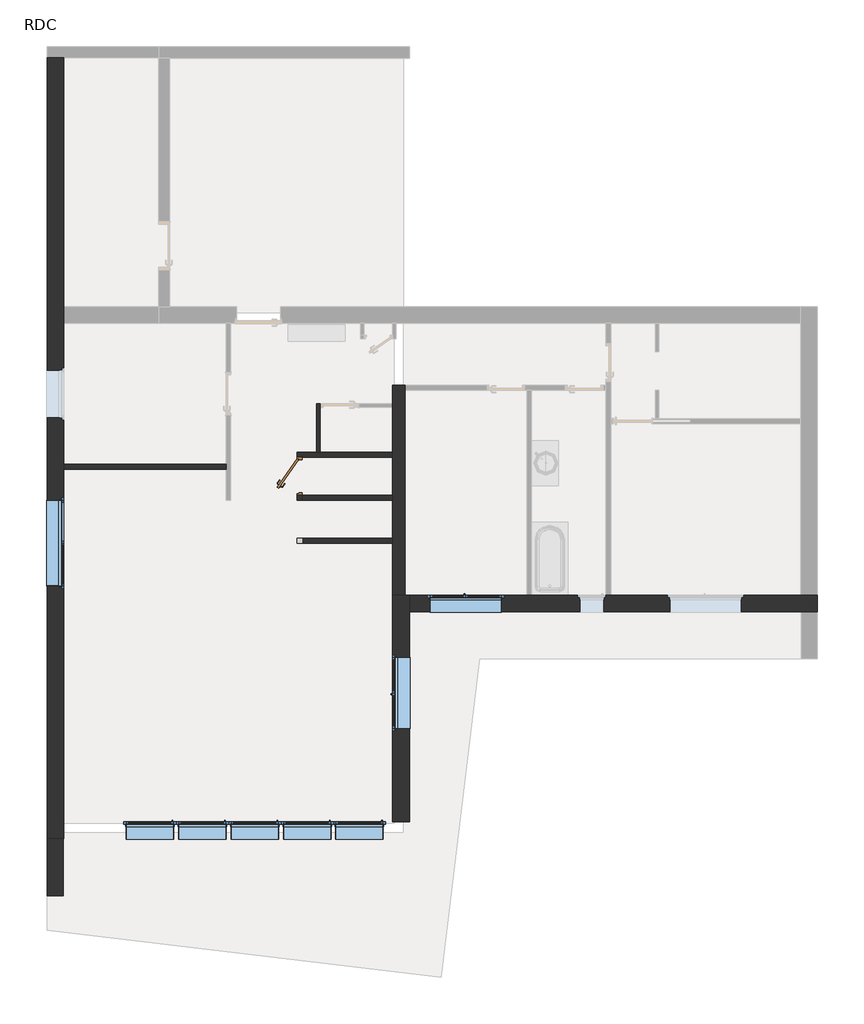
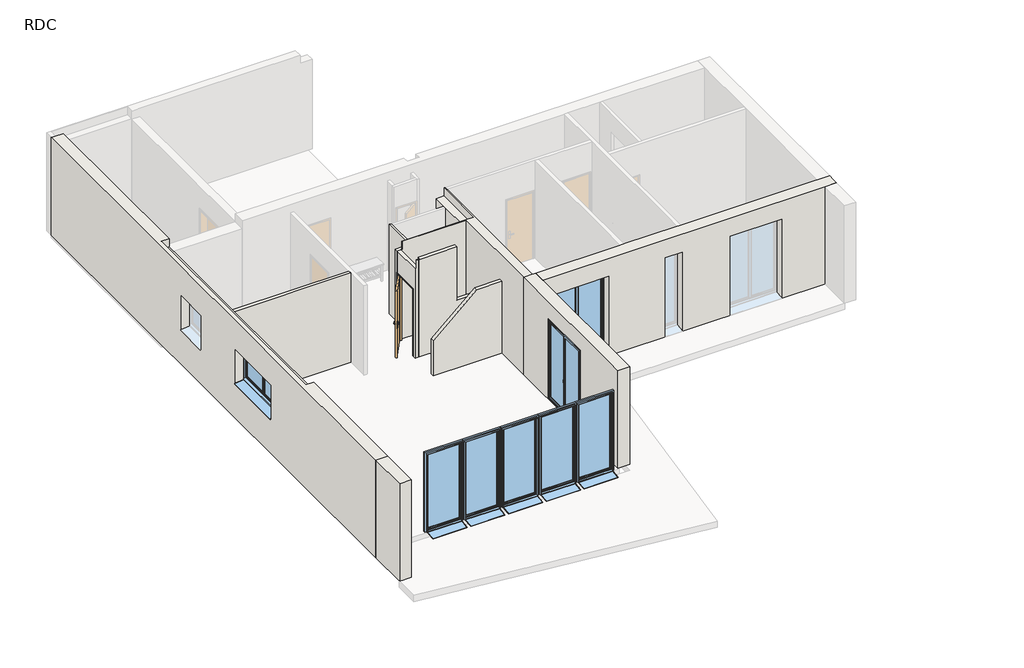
# One storey, part 1 of 2: 11 walls, 8 windows, 1 door.
"""IFC4 building model written with IfcOpenShell, lengths in millimetres."""

from ifc_helpers import new_model, si_unit, frame, origin, origin_with_axes, place, context, project, spatial, polyline, outline, extrude, faceted_brep, transform, mapped, element, save
from components import int_simple_pp_0_73m_x_2_04m_0155da5d, window_1_00m_x_2_40m_46732dcd, window_1_50m_x_2_40m_e69f112c, window_1_80m_x_1_00m_00121215

model = new_model("IFC4")

# Units and contexts
model_context = context("Model", 3, world=origin())
ifc_project = project(units=[si_unit("LENGTHUNIT", "METRE", prefix="MILLI")], contexts=[model_context])

# Site, building, storey
site = spatial("IfcSite", under=ifc_project)
building = spatial("IfcBuilding", under=site)
storey = spatial("IfcBuildingStorey", under=building, Name="RDC", Elevation=0.0)

# Door
placement = place(None, origin())
int_simple_pp_0_73m_x_2_04m_shape = int_simple_pp_0_73m_x_2_04m_0155da5d(model_context)
element("IfcDoor", 1, ObjectType="Int. Simple : PP (0.73m x 2.04m)", at=placement, inside=storey, context=model_context, shape_type="MappedRepresentation", body=[
    mapped(int_simple_pp_0_73m_x_2_04m_shape, transform((-2669.1256089, -1110.1038978, 0.0), x_axis=(0.0, 1.0, 0.0), y_axis=(-1.0, 0.0, 0.0), z_axis=(0.0, 0.0, 1.0))),
])

# Walls
element("IfcWall", 2, ObjectType="Ext. Bardage Métal + Isolant + Béton + Finition", at=placement, inside=storey, context=model_context, shape_type="Brep", body=[
    faceted_brep([(-7956.697342, 7624.9574199, 0.0), (-7956.697342, -8735.0425801, 0.0), (-7956.697342, -8735.0425801, 3000.0), (-7956.697342, 7624.9574199, 3000.0), (-7956.697342, 79.9267611, 2100.0), (-7956.697342, 79.9267611, 1056.6218565), (-7956.697342, 1079.9267611, 1056.6218565), (-7956.697342, 1079.9267611, 2100.0), (-7956.697342, -3445.1038978, 2100.0), (-7956.697342, -3445.1038978, 1056.6218565), (-7956.697342, -1645.1038978, 1056.6218565), (-7956.697342, -1645.1038978, 2100.0), (-7606.697342, -8735.0425801, 0.0), (-7606.697342, -8385.0425801, 0.0), (-7606.697342, -995.1038978, 0.0), (-7606.697342, -895.1038978, 0.0), (-7606.697342, 2054.9574199, 0.0), (-7606.697342, 2404.9574199, 0.0), (-7606.697342, 7624.9574199, 0.0), (-7606.697342, 7624.9574199, 3000.0), (-7606.697342, 2284.9574199, 3000.0), (-7606.697342, 2284.9574199, 2750.0), (-7606.697342, 2054.9574199, 2750.0), (-7606.697342, -895.1038978, 2750.0), (-7606.697342, -995.1038978, 2750.0), (-7606.697342, -4992.0425801, 2750.0), (-7606.697342, -4992.0425801, 3000.0), (-7606.697342, -8385.0425801, 3000.0), (-7606.697342, -8735.0425801, 3000.0), (-7606.697342, 1129.9267611, 1100.0), (-7606.697342, 29.9267611, 1100.0), (-7606.697342, 29.9267611, 2150.0), (-7606.697342, 1129.9267611, 2150.0), (-7606.697342, -1595.1038978, 1100.0), (-7606.697342, -3495.1038978, 1100.0), (-7606.697342, -3495.1038978, 2150.0), (-7606.697342, -1595.1038978, 2150.0), (-7616.697342, -8735.0425801, 0.0), (-7616.697342, -8735.0425801, 3000.0), (-7836.697342, -4992.0425801, 3000.0), (-7836.697342, 2284.9574199, 3000.0), (-7836.697342, 7624.9574199, 3000.0), (-7836.697342, 2284.9574199, 2750.0), (-7836.697342, -4992.0425801, 2750.0), (-7686.697342, 79.9267611, 1100.0), (-7686.697342, 79.9267611, 1085.0), (-7706.697342, 79.9267611, 2100.0), (-7706.697342, 79.9267611, 1100.0), (-7686.697342, 1079.9267611, 1085.0), (-7686.697342, 1079.9267611, 1100.0), (-7706.697342, 1079.9267611, 1100.0), (-7706.697342, 1079.9267611, 2100.0), (-7706.697342, 69.9267611, 1100.0), (-7656.697342, 69.9267611, 1100.0), (-7656.697342, 29.9267611, 1100.0), (-7656.697342, 1129.9267611, 1100.0), (-7656.697342, 1089.9267611, 1100.0), (-7706.697342, 1089.9267611, 1100.0), (-7656.697342, 29.9267611, 2150.0), (-7656.697342, 69.9267611, 2110.0), (-7656.697342, 1089.9267611, 2110.0), (-7656.697342, 1129.9267611, 2150.0), (-7706.697342, 69.9267611, 2110.0), (-7706.697342, 1089.9267611, 2110.0), (-7686.697342, -3445.1038978, 1100.0), (-7686.697342, -3445.1038978, 1085.0), (-7706.697342, -3445.1038978, 2100.0), (-7706.697342, -3445.1038978, 1100.0), (-7686.697342, -1645.1038978, 1085.0), (-7686.697342, -1645.1038978, 1100.0), (-7706.697342, -1645.1038978, 1100.0), (-7706.697342, -1645.1038978, 2100.0), (-7706.697342, -3455.1038978, 1100.0), (-7656.697342, -3455.1038978, 1100.0), (-7656.697342, -3495.1038978, 1100.0), (-7656.697342, -1595.1038978, 1100.0), (-7656.697342, -1635.1038978, 1100.0), (-7706.697342, -1635.1038978, 1100.0), (-7656.697342, -3495.1038978, 2150.0), (-7656.697342, -3455.1038978, 2110.0), (-7656.697342, -1635.1038978, 2110.0), (-7656.697342, -1595.1038978, 2150.0), (-7706.697342, -3455.1038978, 2110.0), (-7706.697342, -1635.1038978, 2110.0)], [[[0, 1, 2, 3], [4, 5, 6, 7], [8, 9, 10, 11]], [[12, 13, 14, 15, 16, 17, 18, 19, 20, 21, 22, 23, 24, 25, 26, 27, 28], [29, 30, 31, 32], [33, 34, 35, 36]], [[1, 0, 18, 17, 16, 15, 14, 13, 12, 37]], [[3, 2, 38, 28, 27, 26, 39, 40, 20, 19, 41]], [[42, 43, 25, 24, 23, 22, 21]], [[43, 42, 40, 39]], [[43, 39, 26, 25]], [[40, 42, 21, 20]], [[0, 3, 41, 19, 18]], [[2, 1, 37, 12, 28, 38]], [[44, 45, 5, 4, 46, 47]], [[48, 49, 50, 51, 7, 6]], [[5, 45, 48, 6]], [[45, 44, 49, 48]], [[46, 4, 7, 51]], [[44, 47, 52, 53, 54, 30, 29, 55, 56, 57, 50, 49]], [[30, 54, 58, 31]], [[54, 53, 59, 60, 56, 55, 61, 58]], [[53, 52, 62, 59]], [[47, 46, 51, 50, 57, 63, 62, 52]], [[31, 58, 61, 32]], [[60, 59, 62, 63]], [[55, 29, 32, 61]], [[57, 56, 60, 63]], [[64, 65, 9, 8, 66, 67]], [[68, 69, 70, 71, 11, 10]], [[9, 65, 68, 10]], [[65, 64, 69, 68]], [[66, 8, 11, 71]], [[64, 67, 72, 73, 74, 34, 33, 75, 76, 77, 70, 69]], [[34, 74, 78, 35]], [[74, 73, 79, 80, 76, 75, 81, 78]], [[73, 72, 82, 79]], [[67, 66, 71, 70, 77, 83, 82, 72]], [[35, 78, 81, 36]], [[80, 79, 82, 83]], [[75, 33, 36, 81]], [[77, 76, 80, 83]]]),
])
element("IfcWall", 3, ObjectType="Ext. Bardage Bois + Isolant + Béton + Finition", at=placement, inside=storey, context=model_context, shape_type="Brep", body=[
    faceted_brep([(-366.697342, -8385.0425801, 0.0), (-366.697342, -3985.0425801, 0.0), (-366.697342, -3635.0425801, 0.0), (-366.697342, -3635.0425801, 3000.0), (-366.697342, -3985.0425801, 3000.0), (-366.697342, -8385.0425801, 3000.0), (-366.697342, -4935.0425801, 2435.0), (-366.697342, -4935.0425801, 6.6218565), (-366.697342, -6435.0425801, 6.6218565), (-366.697342, -6435.0425801, 2435.0), (-716.697342, -8385.0425801, 0.0), (-716.697342, -8385.0425801, 3000.0), (-716.697342, -3635.0425801, 3000.0), (-716.697342, -3635.0425801, 0.0), (-716.697342, -6485.0425801, 35.0), (-716.697342, -4885.0425801, 35.0), (-716.697342, -4885.0425801, 2485.0), (-716.697342, -6485.0425801, 2485.0), (-456.697342, -3635.0425801, 0.0), (-456.697342, -3635.0425801, 3000.0), (-636.697342, -4935.0425801, 35.0), (-616.697342, -4935.0425801, 2435.0), (-616.697342, -4935.0425801, 35.0), (-636.697342, -6435.0425801, 35.0), (-616.697342, -6435.0425801, 35.0), (-616.697342, -6435.0425801, 2435.0), (-616.697342, -4925.0425801, 35.0), (-666.697342, -4925.0425801, 35.0), (-666.697342, -4885.0425801, 35.0), (-666.697342, -6485.0425801, 35.0), (-666.697342, -6445.0425801, 35.0), (-616.697342, -6445.0425801, 35.0), (-666.697342, -4885.0425801, 2485.0), (-666.697342, -4925.0425801, 2445.0), (-666.697342, -6445.0425801, 2445.0), (-666.697342, -6485.0425801, 2485.0), (-616.697342, -4925.0425801, 2445.0), (-616.697342, -6445.0425801, 2445.0)], [[[0, 1, 2, 3, 4, 5], [6, 7, 8, 9]], [[10, 11, 12, 13], [14, 15, 16, 17]], [[2, 1, 0, 10, 13, 18]], [[5, 4, 3, 19, 12, 11]], [[0, 5, 11, 10]], [[3, 2, 18, 13, 12, 19]], [[20, 7, 6, 21, 22]], [[8, 23, 24, 25, 9]], [[20, 23, 8, 7]], [[6, 9, 25, 21]], [[23, 20, 22, 26, 27, 28, 15, 14, 29, 30, 31, 24]], [[15, 28, 32, 16]], [[28, 27, 33, 34, 30, 29, 35, 32]], [[27, 26, 36, 33]], [[26, 22, 21, 25, 24, 31, 37, 36]], [[16, 32, 35, 17]], [[34, 33, 36, 37]], [[35, 29, 14, 17]], [[30, 34, 37, 31]]]),
])
element("IfcWall", 4, ObjectType="Ext. Bardage Métal + Isolant + Béton + Finition", at=placement, inside=storey, context=model_context, shape_type="Brep", body=[
    faceted_brep([(-366.697342, -3985.0425801, 0.0), (7843.302658, -3985.0425801, 0.0), (8183.302658, -3985.0425801, 0.0), (8183.302658, -3985.0425801, 3000.0), (7843.302658, -3985.0425801, 3000.0), (-366.697342, -3985.0425801, 3000.0), (1563.302658, -3985.0425801, 2435.0), (1563.302658, -3985.0425801, 6.6218565), (63.302658, -3985.0425801, 6.6218565), (63.302658, -3985.0425801, 2435.0), (6593.802658, -3985.0425801, 2435.0), (6593.802658, -3985.0425801, 6.6218565), (5093.802658, -3985.0425801, 6.6218565), (5093.802658, -3985.0425801, 2435.0), (3704.302658, -3985.0425801, 2435.0), (3704.302658, -3985.0425801, 6.6218565), (3204.302658, -3985.0425801, 6.6218565), (3204.302658, -3985.0425801, 2435.0), (-366.697342, -3635.0425801, 0.0), (-366.697342, -3635.0425801, 3000.0), (2094.302658, -3635.0425801, 3000.0), (2194.302658, -3635.0425801, 3000.0), (3754.302658, -3635.0425801, 3000.0), (3854.302658, -3635.0425801, 3000.0), (7833.302658, -3635.0425801, 3000.0), (8183.302658, -3635.0425801, 3000.0), (8183.302658, -3635.0425801, 0.0), (7833.302658, -3635.0425801, 0.0), (3854.302658, -3635.0425801, 0.0), (3754.302658, -3635.0425801, 0.0), (2194.302658, -3635.0425801, 0.0), (2094.302658, -3635.0425801, 0.0), (13.302658, -3635.0425801, 35.0), (1613.302658, -3635.0425801, 35.0), (1613.302658, -3635.0425801, 2485.0), (13.302658, -3635.0425801, 2485.0), (5043.802658, -3635.0425801, 35.0), (6643.802658, -3635.0425801, 35.0), (6643.802658, -3635.0425801, 2485.0), (5043.802658, -3635.0425801, 2485.0), (3154.302658, -3635.0425801, 35.0), (3754.302658, -3635.0425801, 35.0), (3754.302658, -3635.0425801, 2485.0), (3154.302658, -3635.0425801, 2485.0), (8183.302658, -3810.0425801, 3000.0), (1563.302658, -3715.0425801, 35.0), (1563.302658, -3735.0425801, 2435.0), (1563.302658, -3735.0425801, 35.0), (63.302658, -3715.0425801, 35.0), (63.302658, -3735.0425801, 35.0), (63.302658, -3735.0425801, 2435.0), (1573.302658, -3735.0425801, 35.0), (1573.302658, -3685.0425801, 35.0), (1613.302658, -3685.0425801, 35.0), (13.302658, -3685.0425801, 35.0), (53.302658, -3685.0425801, 35.0), (53.302658, -3735.0425801, 35.0), (1613.302658, -3685.0425801, 2485.0), (1573.302658, -3685.0425801, 2445.0), (53.302658, -3685.0425801, 2445.0), (13.302658, -3685.0425801, 2485.0), (1573.302658, -3735.0425801, 2445.0), (53.302658, -3735.0425801, 2445.0), (6593.802658, -3715.0425801, 35.0), (6593.802658, -3735.0425801, 2435.0), (6593.802658, -3735.0425801, 35.0), (5093.802658, -3715.0425801, 35.0), (5093.802658, -3735.0425801, 35.0), (5093.802658, -3735.0425801, 2435.0), (6603.802658, -3735.0425801, 35.0), (6603.802658, -3685.0425801, 35.0), (6643.802658, -3685.0425801, 35.0), (5043.802658, -3685.0425801, 35.0), (5083.802658, -3685.0425801, 35.0), (5083.802658, -3735.0425801, 35.0), (6643.802658, -3685.0425801, 2485.0), (6603.802658, -3685.0425801, 2445.0), (5083.802658, -3685.0425801, 2445.0), (5043.802658, -3685.0425801, 2485.0), (6603.802658, -3735.0425801, 2445.0), (5083.802658, -3735.0425801, 2445.0), (3704.302658, -3715.0425801, 35.0), (3704.302658, -3735.0425801, 2435.0), (3704.302658, -3735.0425801, 35.0), (3204.302658, -3715.0425801, 35.0), (3204.302658, -3735.0425801, 35.0), (3204.302658, -3735.0425801, 2435.0), (3714.302658, -3735.0425801, 35.0), (3714.302658, -3685.0425801, 35.0), (3754.302658, -3685.0425801, 35.0), (3154.302658, -3685.0425801, 35.0), (3194.302658, -3685.0425801, 35.0), (3194.302658, -3735.0425801, 35.0), (3754.302658, -3685.0425801, 2485.0), (3714.302658, -3685.0425801, 2445.0), (3194.302658, -3685.0425801, 2445.0), (3154.302658, -3685.0425801, 2485.0), (3714.302658, -3735.0425801, 2445.0), (3194.302658, -3735.0425801, 2445.0)], [[[0, 1, 2, 3, 4, 5], [6, 7, 8, 9], [10, 11, 12, 13], [14, 15, 16, 17]], [[18, 19, 20, 21, 22, 23, 24, 25, 26, 27, 28, 29, 30, 31], [32, 33, 34, 35], [36, 37, 38, 39], [40, 41, 42, 43]], [[2, 1, 0, 18, 31, 30, 29, 28, 27, 26]], [[5, 4, 3, 44, 25, 24, 23, 22, 21, 20, 19]], [[0, 5, 19, 18]], [[3, 2, 26, 25, 44]], [[45, 7, 6, 46, 47]], [[8, 48, 49, 50, 9]], [[45, 48, 8, 7]], [[6, 9, 50, 46]], [[48, 45, 47, 51, 52, 53, 33, 32, 54, 55, 56, 49]], [[33, 53, 57, 34]], [[53, 52, 58, 59, 55, 54, 60, 57]], [[52, 51, 61, 58]], [[51, 47, 46, 50, 49, 56, 62, 61]], [[34, 57, 60, 35]], [[59, 58, 61, 62]], [[60, 54, 32, 35]], [[55, 59, 62, 56]], [[63, 11, 10, 64, 65]], [[12, 66, 67, 68, 13]], [[63, 66, 12, 11]], [[10, 13, 68, 64]], [[66, 63, 65, 69, 70, 71, 37, 36, 72, 73, 74, 67]], [[37, 71, 75, 38]], [[71, 70, 76, 77, 73, 72, 78, 75]], [[70, 69, 79, 76]], [[69, 65, 64, 68, 67, 74, 80, 79]], [[38, 75, 78, 39]], [[77, 76, 79, 80]], [[78, 72, 36, 39]], [[73, 77, 80, 74]], [[81, 15, 14, 82, 83]], [[16, 84, 85, 86, 17]], [[81, 84, 16, 15]], [[14, 17, 86, 82]], [[84, 81, 83, 87, 88, 89, 41, 40, 90, 91, 92, 85]], [[41, 89, 93, 42]], [[89, 88, 94, 95, 91, 90, 96, 93]], [[88, 87, 97, 94]], [[87, 83, 82, 86, 85, 92, 98, 97]], [[42, 93, 96, 43]], [[95, 94, 97, 98]], [[96, 90, 40, 43]], [[91, 95, 98, 92]]]),
])
element("IfcWall", 5, ObjectType="Int. Plâtre 100 mm", at=placement, inside=storey, context=model_context, shape_type="SweptSolid", body=[
    extrude(outline(polyline([(-4211.697342, -995.1038978), (-7606.697342, -995.1038978), (-7606.697342, -895.1038978), (-4211.697342, -895.1038978), (-4211.697342, -995.1038978)])), origin_with_axes(), (0.0, 0.0, 1.0), 2750.0),
])
element("IfcWall", 6, ObjectType="Int. Plâtre 100 mm", at=placement, inside=storey, context=model_context, shape_type="Brep", body=[
    faceted_brep([(-716.697342, -645.1038978, 0.0), (-2241.697342, -645.1038978, 0.0), (-2313.697342, -645.1038978, 0.0), (-2719.1256089, -645.1038978, 0.0), (-2719.1256089, -645.1038978, 2750.0), (-2313.697342, -645.1038978, 2750.0), (-2241.697342, -645.1038978, 2750.0), (-716.697342, -645.1038978, 2750.0), (-2719.1256089, -745.1038978, 0.0), (-716.697342, -745.1038978, 0.0), (-716.697342, -745.1038978, 3000.0), (-2577.5004576, -745.1038978, 3000.0), (-2577.5004576, -745.1038978, 2750.0), (-2619.1256089, -745.1038978, 2750.0), (-2719.1256089, -745.1038978, 2750.0), (-2719.1256089, -745.1038978, 2075.0), (-716.697342, -732.1038978, 3000.0), (-2577.5004576, -732.1038978, 3000.0), (-716.697342, -732.1038978, 2750.0), (-2577.5004576, -732.1038978, 2750.0)], [[[0, 1, 2, 3, 4, 5, 6, 7]], [[8, 9, 10, 11, 12, 13, 14, 15]], [[3, 2, 1, 0, 9, 8]], [[11, 10, 16, 17]], [[3, 8, 15, 14, 4]], [[10, 9, 0, 7, 18, 16]], [[12, 19, 18, 7, 6, 5, 4, 14, 13]], [[19, 17, 16, 18]], [[17, 19, 12, 11]]]),
])
element("IfcWall", 7, ObjectType="Int. Plâtre 100 mm", at=placement, inside=storey, context=model_context, shape_type="Brep", body=[
    faceted_brep([(-2719.1256089, -1545.1038978, 0.0), (-2719.1256089, -1645.1038978, 0.0), (-2719.1256089, -1645.1038978, 2750.0), (-2719.1256089, -745.1038978, 2750.0), (-2719.1256089, -745.1038978, 2075.0), (-2719.1256089, -1545.1038978, 2075.0), (-2619.1256089, -1645.1038978, 3000.0), (-2619.1256089, -1645.1038978, 0.0), (-2619.1256089, -1545.1038978, 0.0), (-2619.1256089, -1545.1038978, 2075.0), (-2619.1256089, -745.1038978, 2075.0), (-2619.1256089, -745.1038978, 2750.0), (-2619.1256089, -1545.1038978, 2750.0), (-2619.1256089, -1632.1038978, 2750.0), (-2619.1256089, -1632.1038978, 3000.0), (-2682.3224934, -1632.1038978, 3000.0), (-2682.3224934, -1645.1038978, 3000.0), (-2682.3224934, -1645.1038978, 2750.0), (-2682.3224934, -1632.1038978, 2750.0)], [[[0, 1, 2, 3, 4, 5]], [[6, 7, 8, 9, 10, 11, 12, 13, 14]], [[7, 1, 0, 8]], [[6, 14, 15, 16]], [[10, 4, 3, 11]], [[17, 18, 13, 12, 11, 3, 2]], [[1, 7, 6, 16, 17, 2]], [[18, 15, 14, 13]], [[15, 18, 17, 16]], [[9, 5, 4, 10]], [[5, 9, 8, 0]]]),
])
element("IfcWall", 8, ObjectType="Int. Plâtre 100 mm", at=placement, inside=storey, context=model_context, shape_type="Brep", body=[
    faceted_brep([(-2619.1256089, -1645.1038978, 0.0), (-716.697342, -1645.1038978, 0.0), (-716.697342, -1645.1038978, 1360.0), (-1515.8753062, -1645.1038978, 1360.0), (-1515.8753062, -1645.1038978, 3000.0), (-2619.1256089, -1645.1038978, 3000.0), (-716.697342, -1545.1038978, 0.0), (-2619.1256089, -1545.1038978, 0.0), (-2619.1256089, -1545.1038978, 2750.0), (-2577.5004576, -1545.1038978, 2750.0), (-2577.5004576, -1545.1038978, 3000.0), (-1515.8753062, -1545.1038978, 3000.0), (-1515.8753062, -1545.1038978, 1360.0), (-716.697342, -1545.1038978, 1360.0), (-2577.5004576, -1632.1038978, 3000.0), (-2619.1256089, -1632.1038978, 3000.0), (-2619.1256089, -1632.1038978, 2750.0), (-2577.5004576, -1632.1038978, 2750.0)], [[[0, 1, 2, 3, 4, 5]], [[6, 7, 8, 9, 10, 11, 12, 13]], [[2, 1, 6, 13]], [[1, 0, 7, 6]], [[5, 4, 11, 10, 14, 15]], [[3, 2, 13, 12]], [[4, 3, 12, 11]], [[7, 0, 5, 15, 16, 8]], [[16, 17, 9, 8]], [[17, 14, 10, 9]], [[14, 17, 16, 15]]]),
])
element("IfcWall", 9, ObjectType="Int. Plâtre 70 mm", at=placement, inside=storey, context=model_context, shape_type="Brep", body=[
    faceted_brep([(-2241.697342, -645.1038978, 0.0), (-2241.697342, 299.8961022, 0.0), (-2241.697342, 371.8961022, 0.0), (-2241.697342, 371.8961022, 2750.0), (-2241.697342, 299.8961022, 2750.0), (-2241.697342, -645.1038978, 2750.0), (-2313.697342, -645.1038978, 0.0), (-2313.697342, -645.1038978, 2750.0), (-2313.697342, 371.8961022, 2750.0), (-2313.697342, 371.8961022, 0.0)], [[[0, 1, 2, 3, 4, 5]], [[6, 7, 8, 9]], [[2, 1, 0, 6, 9]], [[0, 5, 7, 6]], [[3, 2, 9, 8]], [[5, 4, 3, 8, 7]]]),
])
element("IfcWall", 10, ObjectType="Int. Béton + Finition", at=placement, inside=storey, context=model_context, shape_type="Brep", body=[
    faceted_brep([(-716.697342, 757.8961022, 0.0), (-716.697342, 371.8961022, 0.0), (-716.697342, 299.8961022, 0.0), (-716.697342, -645.1038978, 0.0), (-716.697342, -745.1038978, 0.0), (-716.697342, -1545.1038978, 0.0), (-716.697342, -1645.1038978, 0.0), (-716.697342, -2445.1038978, 0.0), (-716.697342, -2545.1038978, 0.0), (-716.697342, -3635.0425801, 0.0), (-716.697342, -3635.0425801, 3000.0), (-716.697342, -745.1038978, 3000.0), (-716.697342, -732.1038978, 3000.0), (-716.697342, -732.1038978, 2750.0), (-716.697342, -645.1038978, 2750.0), (-716.697342, 299.8961022, 2750.0), (-716.697342, 371.8961022, 2750.0), (-716.697342, 757.8961022, 2750.0), (-456.697342, -3635.0425801, 0.0), (-456.697342, 657.8961022, 0.0), (-456.697342, 757.8961022, 0.0), (-456.697342, 757.8961022, 3000.0), (-456.697342, 657.8961022, 3000.0), (-456.697342, -3635.0425801, 3000.0), (-486.697342, 757.8961022, 3000.0), (-486.697342, -732.1038978, 3000.0), (-486.697342, 757.8961022, 2750.0), (-486.697342, -732.1038978, 2750.0)], [[[0, 1, 2, 3, 4, 5, 6, 7, 8, 9, 10, 11, 12, 13, 14, 15, 16, 17]], [[18, 19, 20, 21, 22, 23]], [[9, 8, 7, 6, 5, 4, 3, 2, 1, 0, 20, 19, 18]], [[23, 22, 21, 24, 25, 12, 11, 10]], [[21, 20, 0, 17, 26, 24]], [[10, 9, 18, 23]], [[13, 27, 26, 17, 16, 15, 14]], [[27, 25, 24, 26]], [[25, 27, 13, 12]]]),
])
element("IfcWall", 11, ObjectType="Int. Plâtre 100 mm", at=placement, inside=storey, context=model_context, shape_type="SweptSolid", body=[
    extrude(outline(polyline([(0.0, -716.697342), (2212.5, -716.697342), (2212.5, -1446.8453117), (1087.5, -2719.1256089), (0.0, -2719.1256089), (0.0, -716.697342)])), frame((0.0, -2545.1038978, 0.0), z_axis=(0.0, 1.0, 0.0), x_axis=(0.0, 0.0, 1.0)), (0.0, 0.0, 1.0), 100.0),
])
element("IfcWall", 12, ObjectType="Ext. Bardage Métal + Isolant + Béton + Bardage Bois", at=placement, inside=storey, context=model_context, shape_type="SweptSolid", body=[
    extrude(outline(polyline([(-7956.697342, -9932.1038978), (-7956.697342, -8735.0425801), (-7616.697342, -8735.0425801), (-7616.697342, -9932.1038978), (-7956.697342, -9932.1038978)])), origin_with_axes(), (0.0, 0.0, 1.0), 3000.0),
])

# Windows
window_1_00m_x_2_40m_shape = window_1_00m_x_2_40m_46732dcd(model_context)
element("IfcWindow", 13, ObjectType="PF 1 Vantail - Droite : 1.00m x 2.40m", at=placement, inside=storey, context=model_context, shape_type="MappedRepresentation", body=[
    mapped(window_1_00m_x_2_40m_shape, transform((-5806.697342, -8560.0425801, 0.0), x_axis=(-1.0, 0.0, 0.0), y_axis=(0.0, -1.0, 0.0), z_axis=(0.0, 0.0, 1.0))),
])
element("IfcWindow", 14, ObjectType="PF 1 Vantail - Droite : 1.00m x 2.40m", at=placement, inside=storey, context=model_context, shape_type="MappedRepresentation", body=[
    mapped(window_1_00m_x_2_40m_shape, transform((-4706.697342, -8560.0425801, 0.0), x_axis=(-1.0, 0.0, 0.0), y_axis=(0.0, -1.0, 0.0), z_axis=(0.0, 0.0, 1.0))),
])
element("IfcWindow", 15, ObjectType="PF 1 Vantail - Droite : 1.00m x 2.40m", at=placement, inside=storey, context=model_context, shape_type="MappedRepresentation", body=[
    mapped(window_1_00m_x_2_40m_shape, transform((-3606.697342, -8560.0425801, 0.0), x_axis=(-1.0, 0.0, 0.0), y_axis=(0.0, -1.0, 0.0), z_axis=(0.0, 0.0, 1.0))),
])
element("IfcWindow", 16, ObjectType="PF 1 Vantail - Droite : 1.00m x 2.40m", at=placement, inside=storey, context=model_context, shape_type="MappedRepresentation", body=[
    mapped(window_1_00m_x_2_40m_shape, transform((-2506.697342, -8560.0425801, 0.0), x_axis=(-1.0, 0.0, 0.0), y_axis=(0.0, -1.0, 0.0), z_axis=(0.0, 0.0, 1.0))),
])
element("IfcWindow", 17, ObjectType="PF 1 Vantail - Droite : 1.00m x 2.40m", at=placement, inside=storey, context=model_context, shape_type="MappedRepresentation", body=[
    mapped(window_1_00m_x_2_40m_shape, transform((-1416.697342, -8560.0425801, 0.0), x_axis=(-1.0, 0.0, 0.0), y_axis=(0.0, -1.0, 0.0), z_axis=(0.0, 0.0, 1.0))),
])
window_1_50m_x_2_40m_shape = window_1_50m_x_2_40m_e69f112c(model_context)
element("IfcWindow", 18, ObjectType="PF 2 Vantaux - Droits : 1.50m x 2.40m", at=placement, inside=storey, context=model_context, shape_type="MappedRepresentation", body=[
    mapped(window_1_50m_x_2_40m_shape, transform((813.302658, -3810.0425801, 0.0), x_axis=(-1.0, 0.0, 0.0), y_axis=(0.0, -1.0, 0.0), z_axis=(0.0, 0.0, 1.0))),
])
element("IfcWindow", 19, ObjectType="PF 2 Vantaux - Droits : 1.50m x 2.40m", at=placement, inside=storey, context=model_context, shape_type="MappedRepresentation", body=[
    mapped(window_1_50m_x_2_40m_shape, transform((-541.697342, -5685.0425801, 0.0), x_axis=(0.0, -1.0, 0.0), y_axis=(1.0, 0.0, 0.0), z_axis=(0.0, 0.0, 1.0))),
])
window_1_80m_x_1_00m_shape = window_1_80m_x_1_00m_00121215(model_context)
element("IfcWindow", 20, ObjectType="2 Vantaux - Droits : 1.80m x 1.00m", at=placement, inside=storey, context=model_context, shape_type="MappedRepresentation", body=[
    mapped(window_1_80m_x_1_00m_shape, transform((-7781.697342, -2545.1038978, 300.0), x_axis=(0.0, 1.0, 0.0), y_axis=(-1.0, 0.0, 0.0), z_axis=(0.0, 0.0, 1.0))),
])

save(model, "model.ifc")
